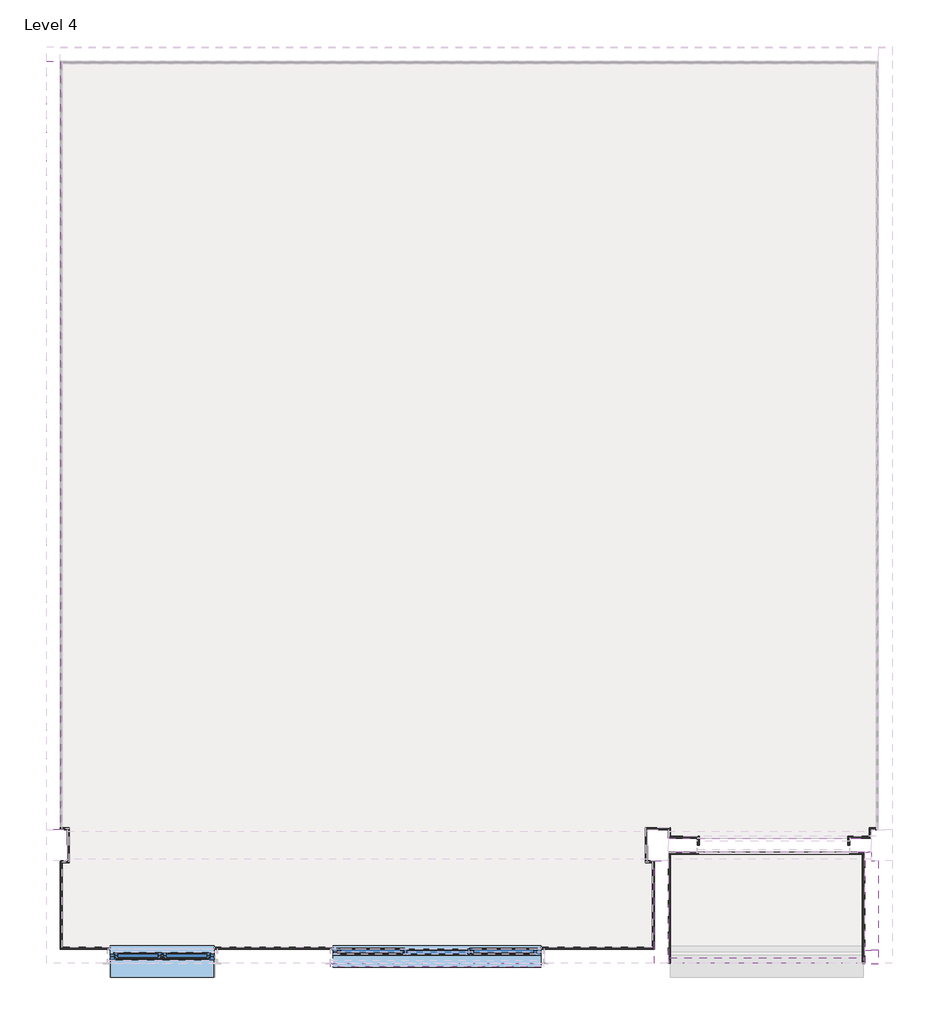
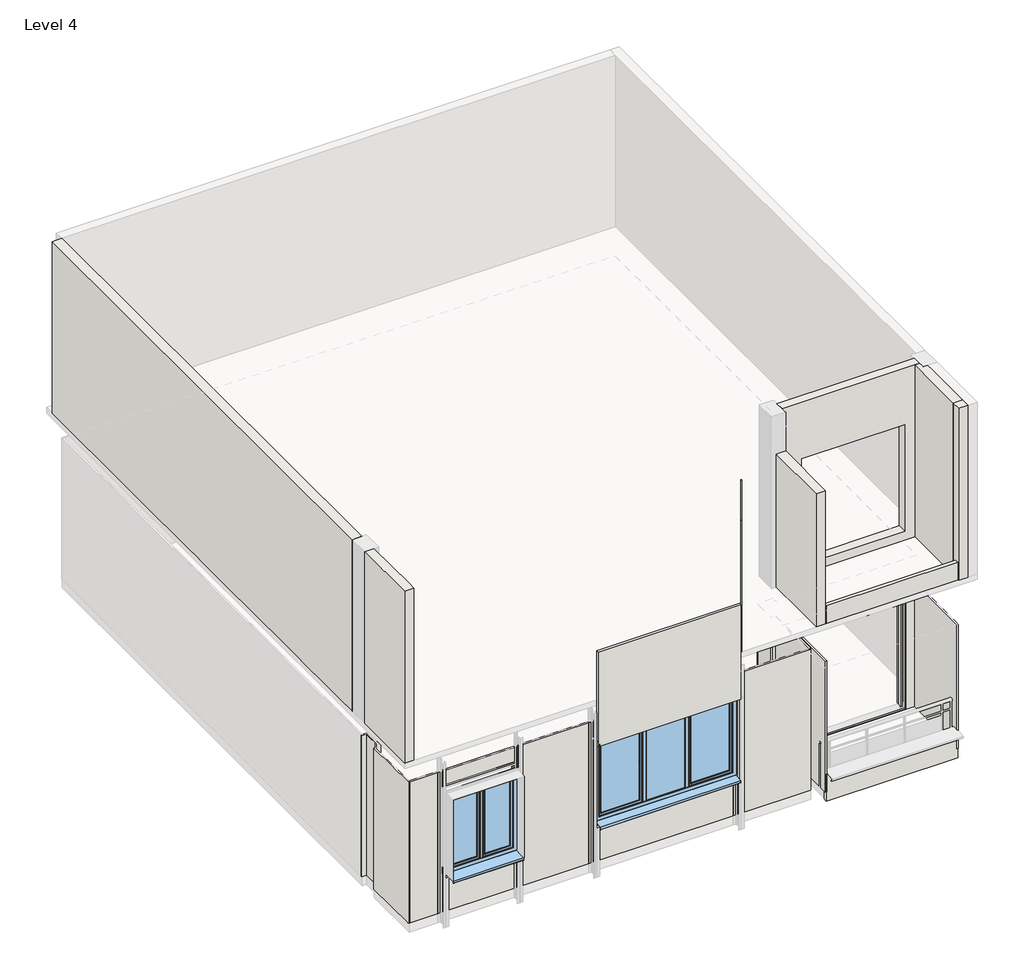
# One storey, part 1 of 2: 27 walls, 2 windows, 1 proxy.
"""IFC4 building model written with IfcOpenShell, lengths in millimetres."""

from ifc_helpers import new_model, si_unit, frame, origin, place, context, project, spatial, polyline, circle_curve, outline, extrude, faceted_brep, transform, mapped, element, save
from ifc_brep_helpers import plane_surface, cylinder_surface, advanced_brep
from components import window_0894faee, window_6c88f6a3, bz1_windows_opening_hinge_s9000_double_vent_window_windows_b4b88814, bz1_windows_opening_hinge_s9000_double_vent_window_windows_c75da518

model = new_model("IFC4")

# Units and contexts
model_context = context("Model", 3, world=origin())
ifc_project = project(units=[si_unit("LENGTHUNIT", "METRE", prefix="MILLI")], contexts=[model_context])

# Site, building, storey
site = spatial("IfcSite", under=ifc_project)
building = spatial("IfcBuilding", under=site)
storey = spatial("IfcBuildingStorey", under=building, Name="Level 4", Elevation=12000.0)

# Proxy
placement = place(None, origin())
element("IfcBuildingElementProxy", 1, Name="Reveal", ObjectType="Reveal", at=placement, inside=storey, context=model_context, shape_type="AdvancedBrep", body=[
    advanced_brep(
    [(2973.4960109, -5700.9799478, 19670.0), (2965.4960254, -5692.9647185, 19670.0), (2957.4960399, -5700.9799478, 19670.0), (2965.4960254, -5708.9647185, 15800.0), (2965.4960254, -5692.9647185, 15800.0), (2973.4960109, -5700.9799478, 15800.0), (2967.4333411, -5700.9799478, 15800.0), (2967.4333411, -5708.7266002, 15800.0), (2967.4333411, -5708.7266002, 18770.3886675), (2965.4960254, -5708.9647185, 18770.3886675), (2957.4960399, -5700.9799478, 18770.3886675), (2967.4333411, -5700.9799478, 18770.3886675)],
    [
        (0, 1, circle_curve(frame((2965.4960254, -5700.9647185, 19670.0), z_axis=(0.0, 0.0, 1.0), x_axis=(0.0, 1.0, 0.0)), 8.0)),
        (1, 2, circle_curve(frame((2965.4960254, -5700.9647185, 19670.0), z_axis=(0.0, 0.0, 1.0), x_axis=(0.0, 1.0, 0.0)), 8.0)),
        (2, 0),
        (3, 4, circle_curve(frame((2965.4960254, -5700.9647185, 15800.0), z_axis=(0.0, 0.0, -1.0), x_axis=(0.0, 1.0, 0.0)), 8.0)),
        (4, 5, circle_curve(frame((2965.4960254, -5700.9647185, 15800.0), z_axis=(0.0, 0.0, -1.0), x_axis=(0.0, 1.0, 0.0)), 8.0)),
        (5, 6),
        (6, 7),
        (7, 3, circle_curve(frame((2965.4960254, -5700.9647185, 15800.0), z_axis=(0.0, 0.0, -1.0), x_axis=(0.0, 1.0, 0.0)), 8.0)),
        (4, 1),
        (0, 5),
        (7, 8),
        (8, 9, circle_curve(frame((2965.4960254, -5700.9647185, 18770.3886675), z_axis=(0.0, 0.0, -1.0), x_axis=(0.0, 1.0, 0.0)), 8.0)),
        (9, 3),
        (9, 10, circle_curve(frame((2965.4960254, -5700.9647185, 18770.3886675), z_axis=(0.0, 0.0, -1.0), x_axis=(0.0, 1.0, 0.0)), 8.0)),
        (10, 2),
        (11, 6),
        (10, 11),
        (11, 8),
    ],
    [
        plane_surface(frame((2964.4333411, -5709.9008409, 19670.0), z_axis=(0.0, 0.0, 1.0), x_axis=(-1.0, 0.0, 0.0))),
        plane_surface(frame((2964.4333411, -5709.9008409, 15800.0), z_axis=(0.0, 0.0, -1.0), x_axis=(-1.0, 0.0, 0.0))),
        cylinder_surface(frame((2965.4960254, -5700.9647185, 19670.0), z_axis=(0.0, 0.0, 1.0), x_axis=(0.0, 1.0, 0.0)), 8.0),
        plane_surface(frame((4759.4333411, -5700.9799478, 3630.0), z_axis=(0.0, -1.0, 0.0), x_axis=(-1.0, 0.0, 0.0))),
        plane_surface(frame((2967.4333411, -5568.8647185, 4900.0), z_axis=(1.0, 0.0, 0.0), x_axis=(0.0, 1.0, 0.0))),
        plane_surface(frame((2939.4333411, -5700.9799478, 18770.3886675), z_axis=(0.0, 0.0, 1.0), x_axis=(1.0, 0.0, 0.0))),
    ],
    [
        (0, [[1, 2, 3]]),
        (1, [[4, 5, 6, 7, 8]]),
        (2, [[9, -1, 10, -5]]),
        (2, [[-8, 11, 12, 13]]),
        (2, [[-4, -13, 14, 15, -2, -9]]),
        (3, [[16, -6, -10, -3, -15, 17]]),
        (4, [[-16, 18, -11, -7]]),
        (5, [[-18, -17, -14, -12]]),
    ],
),
])

# Walls
element("IfcWall", 2, ObjectType="BZ1_fnsh_wthie stucoo_3cm", at=placement, inside=storey, context=model_context, shape_type="Brep", body=[
    faceted_brep([(4789.4333411, -5700.9647185, 12002.7236333), (4789.4333411, -4130.9647185, 12002.7236333), (4789.4333411, -4130.9647185, 14960.1363241), (4789.4333411, -5700.9647185, 14960.1363241), (4759.4333411, -5700.9647185, 12002.7236333), (4759.4333411, -5700.9647185, 14960.1363241), (4759.4333411, -4130.9647185, 14960.1363241), (4759.4333411, -4130.9647185, 14820.0), (4759.4333411, -4130.9647185, 12002.7236333)], [[[0, 1, 2, 3]], [[4, 5, 6, 7, 8]], [[1, 0, 4, 8]], [[3, 2, 6, 5]], [[0, 3, 5, 4]], [[2, 1, 8, 7, 6]]]),
])
element("IfcWall", 3, ObjectType="BZ1_fnsh_wthie stucoo_3cm", at=placement, inside=storey, context=model_context, shape_type="Brep", body=[
    faceted_brep([(7589.4333411, -4100.9647185, 12000.0), (4759.4333411, -4100.9647185, 12000.0), (4759.4333411, -4100.9647185, 14820.0), (7589.4333411, -4100.9647185, 14820.0), (5195.0708411, -4100.9647185, 14400.0), (5195.0708411, -4100.9647185, 12020.6375), (7374.4333411, -4100.9647185, 12020.6375), (7374.4333411, -4100.9647185, 14400.0), (7589.4333411, -4130.9647185, 12000.0), (7589.4333411, -4130.9647185, 14800.0), (7589.4333411, -4130.9647185, 14820.0), (4759.4333411, -4130.9647185, 14820.0), (4759.4333411, -4130.9647185, 12002.7236333), (4759.4333411, -4130.9647185, 12000.0), (7559.4333411, -4130.9647185, 12000.0), (5195.0708411, -4130.9647185, 14400.0), (7374.4333411, -4130.9647185, 14400.0), (7374.4333411, -4130.9647185, 12020.6375), (5195.0708411, -4130.9647185, 12020.6375)], [[[0, 1, 2, 3], [4, 5, 6, 7]], [[8, 9, 10, 11, 12, 13, 14], [15, 16, 17, 18]], [[1, 0, 8, 14, 13]], [[2, 1, 13, 12, 11]], [[3, 2, 11, 10]], [[5, 4, 15, 18]], [[6, 5, 18, 17]], [[7, 6, 17, 16]], [[4, 7, 16, 15]], [[0, 3, 10, 9, 8]]]),
])
element("IfcWall", 4, ObjectType="BZ1_fnsh_wthie stucoo_3cm", at=placement, inside=storey, context=model_context, shape_type="SweptSolid", body=[
    extrude(outline(polyline([(7589.4333411, -4130.9647185), (7589.4333411, -5700.9647185), (7559.4333411, -5700.9647185), (7559.4333411, -4130.9647185), (7589.4333411, -4130.9647185)])), frame((0.0, 0.0, 12000.0), z_axis=(0.0, 0.0, 1.0), x_axis=(1.0, 0.0, 0.0)), (0.0, 0.0, 1.0), 2800.0),
])
element("IfcWall", 5, ObjectType="BZ1_fnsh_white stucoo_5cm", at=placement, inside=storey, context=model_context, shape_type="Brep", body=[
    faceted_brep([(-115.5666589, -5700.9799478, 14770.0), (-115.5666589, -5700.9799478, 16900.0), (2927.4333411, -5700.9799478, 16900.0), (2927.4333411, -5700.9799478, 15800.0), (2927.4333411, -5700.9799478, 14810.0), (-80.2322612, -5700.9799478, 14810.0), (-80.2322612, -5700.9799478, 14770.0), (-115.5666589, -5750.9799478, 14770.0), (2927.4333411, -5750.9799478, 14770.0), (2927.4333411, -5750.9799478, 16900.0), (-115.5666589, -5750.9799478, 16900.0), (2927.4333411, -5743.4647185, 14770.0), (2927.4333411, -5743.4647185, 14810.0), (-80.2322612, -5743.4647185, 14810.0), (-80.2322612, -5743.4647185, 14770.0)], [[[0, 1, 2, 3, 4, 5, 6]], [[7, 8, 9, 10]], [[9, 8, 11, 12, 4, 3, 2]], [[12, 13, 5, 4]], [[14, 13, 12, 11]], [[8, 7, 0, 6, 14, 11]], [[1, 0, 7, 10]], [[2, 1, 10, 9]], [[13, 14, 6, 5]]]),
])
element("IfcWall", 6, ObjectType="BZ1_fnsh_gypsun3cm", at=placement, inside=storey, context=model_context, shape_type="SweptSolid", body=[
    extrude(outline(polyline([(12000.0, 4559.4333411), (15180.0, 4559.4333411), (15180.0, -4010.5666589), (12000.0, -4010.5666589), (12000.0, 4559.4333411)]), holes=[polyline([(12940.0, -1790.5666589), (12940.0, -3290.5666589), (14770.0, -3290.5666589), (14770.0, -1790.5666589), (12940.0, -1790.5666589)]), polyline([(12951.5, 2922.4333411), (12951.5, -75.5666589), (14770.0, -75.5666589), (14770.0, 2922.4333411), (12951.5, 2922.4333411)])]), frame((0.0, -5500.9647185, 0.0), z_axis=(0.0, 1.0, 0.0), x_axis=(0.0, 0.0, 1.0)), (0.0, 0.0, 1.0), 30.0),
])
element("IfcWall", 7, ObjectType="BZ1_fnsh_gypsun3cm", at=placement, inside=storey, context=model_context, shape_type="Brep", body=[
    faceted_brep([(-3980.5666589, -5500.9647185, 12000.0), (-3980.5666589, -4255.9647185, 12000.0), (-3980.5666589, -4225.9647185, 12000.0), (-3980.5666589, -4225.9647185, 15175.0), (-3980.5666589, -5500.9647185, 15175.0), (-4010.5666589, -5500.9647185, 12000.0), (-4010.5666589, -5500.9647185, 15175.0), (-4010.5666589, -4225.9647185, 15175.0), (-4010.5666589, -4225.9647185, 12000.0)], [[[0, 1, 2, 3, 4]], [[5, 6, 7, 8]], [[2, 1, 0, 5, 8]], [[4, 3, 7, 6]], [[3, 2, 8, 7]], [[0, 4, 6, 5]]]),
])
element("IfcWall", 8, ObjectType="BZ1_fnsh_gypsun3cm", at=placement, inside=storey, context=model_context, shape_type="Brep", body=[
    faceted_brep([(-3980.5666589, -4255.9647185, 12000.0), (-3880.5666589, -4255.9647185, 12000.0), (-3880.5666589, -4255.9647185, 15300.0), (-3980.5666589, -4255.9647185, 15300.0), (-3980.5666589, -4225.9647185, 12000.0), (-3980.5666589, -4225.9647185, 15175.0), (-3980.5666589, -4225.9647185, 15300.0), (-3880.5666589, -4225.9647185, 15300.0), (-3880.5666589, -4225.9647185, 15180.0), (-3880.5666589, -4225.9647185, 12000.0), (-3910.5666589, -4225.9647185, 12000.0)], [[[0, 1, 2, 3]], [[4, 5, 6, 7, 8, 9, 10]], [[1, 0, 4, 10, 9]], [[3, 2, 7, 6]], [[0, 3, 6, 5, 4]], [[2, 1, 9, 8, 7]]]),
])
element("IfcWall", 9, ObjectType="BZ1_fnsh_gypsun3cm", at=placement, inside=storey, context=model_context, shape_type="Brep", body=[
    faceted_brep([(-3880.5666589, -4225.9647185, 12000.0), (-3880.5666589, -3745.9647185, 12000.0), (-3880.5666589, -3745.9647185, 15180.0), (-3880.5666589, -4225.9647185, 15180.0), (-3910.5666589, -4225.9647185, 12000.0), (-3910.5666589, -4225.9647185, 15180.0), (-3910.5666589, -3775.9647185, 15180.0), (-3910.5666589, -3745.9647185, 15180.0), (-3910.5666589, -3745.9647185, 12000.0), (-3910.5666589, -3775.9647185, 12000.0)], [[[0, 1, 2, 3]], [[4, 5, 6, 7, 8, 9]], [[1, 0, 4, 9, 8]], [[3, 2, 7, 6, 5]], [[0, 3, 5, 4]], [[2, 1, 8, 7]]]),
])
element("IfcWall", 10, ObjectType="BZ1_fnsh_gypsun3cm", at=placement, inside=storey, context=model_context, shape_type="Brep", body=[
    faceted_brep([(-3910.5666589, -3745.9647185, 12000.0), (-3980.5666589, -3745.9647185, 12000.0), (-4010.5666589, -3745.9647185, 12000.0), (-4010.5666589, -3745.9647185, 15180.0), (-3980.5666589, -3745.9647185, 15180.0), (-3910.5666589, -3745.9647185, 15180.0), (-3910.5666589, -3775.9647185, 12000.0), (-3910.5666589, -3775.9647185, 15180.0), (-4010.5666589, -3775.9647185, 15180.0), (-4010.5666589, -3775.9647185, 12000.0)], [[[0, 1, 2, 3, 4, 5]], [[6, 7, 8, 9]], [[2, 1, 0, 6, 9]], [[5, 4, 3, 8, 7]], [[0, 5, 7, 6]], [[3, 2, 9, 8]]]),
])
element("IfcWall", 11, ObjectType="BZ1_fnsh_gypsun3cm", at=placement, inside=storey, context=model_context, shape_type="Brep", body=[
    faceted_brep([(7759.4333411, -3745.9647185, 12000.0), (7659.4333411, -3745.9647185, 12000.0), (7659.4333411, -3745.9647185, 15184.6661592), (7759.4333411, -3745.9647185, 15184.6661592), (7759.4333411, -3775.9647185, 12000.0), (7759.4333411, -3775.9647185, 15184.6661592), (7659.4333411, -3775.9647185, 15184.6661592), (7659.4333411, -3775.9647185, 15180.0), (7659.4333411, -3775.9647185, 12000.0), (7689.4333411, -3775.9647185, 12000.0)], [[[0, 1, 2, 3]], [[4, 5, 6, 7, 8, 9]], [[1, 0, 4, 9, 8]], [[3, 2, 6, 5]], [[0, 3, 5, 4]], [[2, 1, 8, 7, 6]]]),
])
element("IfcWall", 12, ObjectType="BZ1_fnsh_gypsun3cm", at=placement, inside=storey, context=model_context, shape_type="Brep", body=[
    faceted_brep([(7659.4333411, -3775.9647185, 12000.0), (7659.4333411, -3870.9647185, 12000.0), (7659.4333411, -3900.9647185, 12000.0), (7659.4333411, -3900.9647185, 15200.0), (7659.4333411, -3900.9647185, 15300.0), (7659.4333411, -3870.9647185, 15300.0), (7659.4333411, -3870.9647185, 15200.0), (7659.4333411, -3870.9647185, 15180.0), (7659.4333411, -3775.9647185, 15180.0), (7689.4333411, -3775.9647185, 12000.0), (7689.4333411, -3775.9647185, 15180.0), (7689.4333411, -3870.9647185, 15180.0), (7689.4333411, -3870.9647185, 15300.0), (7689.4333411, -3900.9647185, 15300.0), (7689.4333411, -3900.9647185, 12000.0)], [[[0, 1, 2, 3, 4, 5, 6, 7, 8]], [[9, 10, 11, 12, 13, 14]], [[2, 1, 0, 9, 14]], [[0, 8, 10, 9]], [[5, 4, 13, 12]], [[8, 7, 11, 10]], [[5, 12, 11, 7, 6]], [[2, 14, 13, 4, 3]]]),
])
element("IfcWall", 13, ObjectType="BZ1_fnsh_gypsun3cm", at=placement, inside=storey, context=model_context, shape_type="Brep", body=[
    faceted_brep([(7659.4333411, -3870.9647185, 12000.0), (7344.4333411, -3870.9647185, 12000.0), (7344.4333411, -3870.9647185, 14400.0), (5204.4333411, -3870.9647185, 14400.0), (5174.4333411, -3870.9647185, 14400.0), (5174.4333411, -3870.9647185, 15200.0), (5204.4333411, -3870.9647185, 15200.0), (7659.4333411, -3870.9647185, 15200.0), (7659.4333411, -3870.9647185, 15180.0), (7659.4333411, -3900.9647185, 12000.0), (7659.4333411, -3900.9647185, 15200.0), (5204.4333411, -3900.9647185, 15200.0), (5174.4333411, -3900.9647185, 15200.0), (5174.4333411, -3900.9647185, 14400.0), (5204.4333411, -3900.9647185, 14400.0), (7344.4333411, -3900.9647185, 14400.0), (7344.4333411, -3900.9647185, 12000.0), (7374.4333411, -3900.9647185, 12000.0)], [[[0, 1, 2, 3, 4, 5, 6, 7, 8]], [[9, 10, 11, 12, 13, 14, 15, 16, 17]], [[0, 8, 7, 10, 9]], [[1, 0, 9, 17, 16]], [[4, 3, 2, 15, 14, 13]], [[5, 4, 13, 12]], [[7, 6, 5, 12, 11, 10]], [[2, 1, 16, 15]]]),
])
element("IfcWall", 14, ObjectType="BZ1_fnsh_gypsun3cm", at=placement, inside=storey, context=model_context, shape_type="SweptSolid", body=[
    extrude(outline(polyline([(7344.4333411, -4000.9647185), (7344.4333411, -3900.9647185), (7374.4333411, -3900.9647185), (7374.4333411, -4000.9647185), (7344.4333411, -4000.9647185)])), frame((0.0, 0.0, 12000.0), z_axis=(0.0, 0.0, 1.0), x_axis=(1.0, 0.0, 0.0)), (0.0, 0.0, 1.0), 2400.0),
])
element("IfcWall", 15, ObjectType="BZ1_fnsh_gypsun3cm", at=placement, inside=storey, context=model_context, shape_type="Brep", body=[
    faceted_brep([(5204.4333411, -3870.9647185, 12000.0), (4789.4333411, -3870.9647185, 12000.0), (4759.4333411, -3870.9647185, 12000.0), (4759.4333411, -3870.9647185, 15200.0), (4759.4333411, -3870.9647185, 15300.0), (5204.4333411, -3870.9647185, 15300.0), (5204.4333411, -3870.9647185, 15200.0), (5174.4333411, -3870.9647185, 15200.0), (5174.4333411, -3870.9647185, 14400.0), (5204.4333411, -3870.9647185, 14400.0), (5204.4333411, -3900.9647185, 12000.0), (5204.4333411, -3900.9647185, 14400.0), (5174.4333411, -3900.9647185, 14400.0), (5174.4333411, -3900.9647185, 15200.0), (5204.4333411, -3900.9647185, 15200.0), (5204.4333411, -3900.9647185, 15300.0), (5174.4333411, -3900.9647185, 15300.0), (4759.4333411, -3900.9647185, 15300.0), (4759.4333411, -3900.9647185, 12000.0), (5174.4333411, -3900.9647185, 12000.0)], [[[0, 1, 2, 3, 4, 5, 6, 7, 8, 9]], [[10, 11, 12, 13, 14, 15, 16, 17, 18, 19]], [[2, 1, 0, 10, 19, 18]], [[5, 4, 17, 16, 15]], [[4, 3, 2, 18, 17]], [[8, 12, 11, 9]], [[8, 7, 13, 12]], [[6, 14, 13, 7]], [[0, 9, 11, 10]], [[6, 5, 15, 14]]]),
])
element("IfcWall", 16, ObjectType="BZ1_fnsh_gypsun3cm", at=placement, inside=storey, context=model_context, shape_type="Brep", body=[
    faceted_brep([(4789.4333411, -3870.9647185, 12000.0), (4789.4333411, -3745.9647185, 12000.0), (4789.4333411, -3745.9647185, 15200.0), (4789.4333411, -3870.9647185, 15200.0), (4759.4333411, -3870.9647185, 12000.0), (4759.4333411, -3870.9647185, 15200.0), (4759.4333411, -3775.9647185, 15200.0), (4759.4333411, -3745.9647185, 15200.0), (4759.4333411, -3745.9647185, 12000.0), (4759.4333411, -3775.9647185, 12000.0)], [[[0, 1, 2, 3]], [[4, 5, 6, 7, 8, 9]], [[1, 0, 4, 9, 8]], [[3, 2, 7, 6, 5]], [[0, 3, 5, 4]], [[2, 1, 8, 7]]]),
])
element("IfcWall", 17, ObjectType="BZ1_fnsh_gypsun3cm", at=placement, inside=storey, context=model_context, shape_type="Brep", body=[
    faceted_brep([(4759.4333411, -3745.9647185, 12000.0), (4429.4333411, -3745.9647185, 12000.0), (4429.4333411, -3745.9647185, 15200.0), (4759.4333411, -3745.9647185, 15200.0), (4759.4333411, -3775.9647185, 12000.0), (4759.4333411, -3775.9647185, 15200.0), (4429.4333411, -3775.9647185, 15200.0), (4429.4333411, -3775.9647185, 12000.0), (4459.4333411, -3775.9647185, 12000.0)], [[[0, 1, 2, 3]], [[4, 5, 6, 7, 8]], [[1, 0, 4, 8, 7]], [[3, 2, 6, 5]], [[0, 3, 5, 4]], [[2, 1, 7, 6]]]),
])
element("IfcWall", 18, ObjectType="BZ1_fnsh_gypsun3cm", at=placement, inside=storey, context=model_context, shape_type="Brep", body=[
    faceted_brep([(4429.4333411, -3775.9647185, 12000.0), (4429.4333411, -4255.9647185, 12000.0), (4429.4333411, -4255.9647185, 15180.0), (4429.4333411, -4240.9647185, 15180.0), (4429.4333411, -4240.9647185, 15200.4600485), (4429.4333411, -3775.9647185, 15200.4600485), (4429.4333411, -3775.9647185, 15200.0), (4459.4333411, -3775.9647185, 12000.0), (4459.4333411, -3775.9647185, 15200.4600485), (4459.4333411, -4240.9647185, 15200.4600485), (4459.4333411, -4240.9647185, 15180.0), (4459.4333411, -4255.9647185, 15180.0), (4459.4333411, -4255.9647185, 12000.0), (4459.4333411, -4225.9647185, 12000.0)], [[[0, 1, 2, 3, 4, 5, 6]], [[7, 8, 9, 10, 11, 12, 13]], [[1, 0, 7, 13, 12]], [[0, 6, 5, 8, 7]], [[2, 1, 12, 11]], [[5, 4, 9, 8]], [[3, 2, 11, 10]], [[9, 4, 3, 10]]]),
])
element("IfcWall", 19, ObjectType="BZ1_fnsh_gypsun3cm", at=placement, inside=storey, context=model_context, shape_type="Brep", body=[
    faceted_brep([(4459.4333411, -4255.9647185, 12000.0), (4529.4333411, -4255.9647185, 12000.0), (4559.4333411, -4255.9647185, 12000.0), (4559.4333411, -4255.9647185, 15200.0), (4559.4333411, -4255.9647185, 15300.0), (4459.4333411, -4255.9647185, 15300.0), (4459.4333411, -4255.9647185, 15180.0), (4459.4333411, -4225.9647185, 12000.0), (4459.4333411, -4225.9647185, 15300.0), (4559.4333411, -4225.9647185, 15300.0), (4559.4333411, -4225.9647185, 12000.0)], [[[0, 1, 2, 3, 4, 5, 6]], [[7, 8, 9, 10]], [[2, 1, 0, 7, 10]], [[5, 4, 9, 8]], [[0, 6, 5, 8, 7]], [[2, 10, 9, 4, 3]]]),
])
element("IfcWall", 20, ObjectType="BZ1_fnsh_gypsun3cm", at=placement, inside=storey, context=model_context, shape_type="SweptSolid", body=[
    extrude(outline(polyline([(4529.4333411, -5500.9647185), (4529.4333411, -4255.9647185), (4559.4333411, -4255.9647185), (4559.4333411, -5500.9647185), (4529.4333411, -5500.9647185)])), frame((0.0, 0.0, 12000.0), z_axis=(0.0, 0.0, 1.0), x_axis=(1.0, 0.0, 0.0)), (0.0, 0.0, 1.0), 3200.0),
])
element("IfcWall", 21, ObjectType="BZ1_fnsh_gypsun3cm", at=placement, inside=storey, context=model_context, shape_type="Brep", body=[
    faceted_brep([(5174.4333411, -3900.9647185, 15300.0), (5174.4333411, -3900.9647185, 15200.0), (5174.4333411, -3900.9647185, 14400.0), (5174.4333411, -3900.9647185, 12000.0), (5174.4333411, -4000.9647185, 12000.0), (5174.4333411, -4000.9647185, 15300.0), (5204.4333411, -3900.9647185, 12000.0), (5204.4333411, -3900.9647185, 14400.0), (5204.4333411, -3900.9647185, 15200.0), (5204.4333411, -3900.9647185, 15300.0), (5204.4333411, -4000.9647185, 15300.0), (5204.4333411, -4000.9647185, 12000.0)], [[[0, 1, 2, 3, 4, 5]], [[6, 7, 8, 9, 10, 11]], [[4, 3, 6, 11]], [[5, 4, 11, 10]], [[0, 5, 10, 9]], [[0, 9, 8, 7, 6, 3, 2, 1]]]),
])
element("IfcWall", 22, ObjectType="BZ1_Core_Block_Whit flashing-10cm", at=placement, inside=storey, context=model_context, shape_type="SweptSolid", body=[
    extrude(outline(polyline([(4774.4280707, -5620.3554823), (7574.4280707, -5620.3554823), (7574.4280707, -5700.3554823), (4774.4280707, -5700.3554823), (4774.4280707, -5620.3554823)])), frame((0.0, 0.0, 15800.0), z_axis=(0.0, 0.0, 1.0), x_axis=(1.0, 0.0, 0.0)), (0.0, 0.0, 1.0), 400.0),
])
element("IfcWall", 23, ObjectType="BZ1_Core_Block_Whit flashing-10cm", at=placement, inside=storey, context=model_context, shape_type="SweptSolid", body=[
    extrude(outline(polyline([(4774.4280707, -5620.3554823), (7574.4280707, -5620.3554823), (7574.4280707, -5700.3554823), (4774.4280707, -5700.3554823), (4774.4280707, -5620.3554823)])), frame((0.0, 0.0, 11800.0), z_axis=(0.0, 0.0, 1.0), x_axis=(1.0, 0.0, 0.0)), (0.0, 0.0, 1.0), 600.0),
])
element("IfcWall", 24, ObjectType="BZ1-Core-Block-20cm", at=placement, inside=storey, context=model_context, shape_type="Brep", body=[
    faceted_brep([(-4010.5666589, -5700.9799478, 19670.0), (-4010.5666589, -5700.9799478, 15800.0), (-4010.5666589, -5500.9647185, 15800.0), (-4010.5666589, -4225.9647185, 15800.0), (-4010.5666589, -4225.9647185, 19670.0), (-4010.5666589, -5500.9647185, 19670.0), (-4210.5666589, -5700.9799478, 15800.0), (-4210.5666589, -5700.9799478, 19670.0), (-4210.5666589, -4225.9647185, 19670.0), (-4210.5666589, -4225.9647185, 15800.0)], [[[0, 1, 2, 3, 4, 5]], [[6, 7, 8, 9]], [[7, 0, 5, 4, 8]], [[4, 3, 9, 8]], [[1, 6, 9, 3, 2]], [[1, 0, 7, 6]]]),
    faceted_brep([(-4010.5666589, 7299.0352815, 15800.0), (-4010.5666589, 7299.0352815, 16000.0), (-4010.5666589, 7299.0352815, 19180.0), (-4010.5666589, 7299.0352815, 19670.0), (-4010.5666589, -3775.9647185, 19670.0), (-4010.5666589, -3775.9647185, 19180.0), (-4010.5666589, -3775.9647185, 16000.0), (-4010.5666589, -3775.9647185, 15800.0), (-4210.5666589, 7299.0352815, 19670.0), (-4210.5666589, 7299.0352815, 15800.0), (-4210.5666589, -3775.9647185, 15800.0), (-4210.5666589, -3775.9647185, 19670.0)], [[[0, 1, 2, 3, 4, 5, 6, 7]], [[8, 9, 10, 11]], [[3, 8, 11, 4]], [[7, 6, 5, 4, 11, 10]], [[3, 2, 1, 0, 9, 8]], [[9, 0, 7, 10]]]),
])
element("IfcWall", 25, ObjectType="BZ1-Core-Block-20cm", at=placement, inside=storey, context=model_context, shape_type="Brep", body=[
    faceted_brep([(4759.4333411, -5700.9647185, 18800.0), (4759.4333411, -5700.9647185, 15800.0), (4759.4333411, -4225.9647185, 15800.0), (4759.4333411, -4225.9647185, 18800.0), (4559.4333411, -5700.9647185, 15800.0), (4559.4333411, -5700.9647185, 18800.0), (4559.4333411, -4225.9647185, 18800.0), (4559.4333411, -4225.9647185, 16000.0), (4559.4333411, -4225.9647185, 15800.0), (4559.4333411, -5500.9647185, 15800.0)], [[[0, 1, 2, 3]], [[4, 5, 6, 7, 8, 9]], [[3, 2, 8, 7, 6]], [[1, 4, 9, 8, 2]], [[5, 0, 3, 6]], [[0, 5, 4, 1]]]),
])
element("IfcWall", 26, ObjectType="BZ1-Core-Block-20cm", at=placement, inside=storey, context=model_context, shape_type="Brep", body=[
    faceted_brep([(4759.4333411, -4100.9647185, 19670.0), (4759.4333411, -4100.9647185, 15800.0), (7589.4333411, -4100.9647185, 15800.0), (7689.4333411, -4100.9647185, 15800.0), (7689.4333411, -4100.9647185, 19670.0), (7589.4333411, -4100.9647185, 19670.0), (5174.4333411, -4100.9647185, 16000.0), (5174.4333411, -4100.9647185, 18400.0), (7374.4333411, -4100.9647185, 18400.0), (7374.4333411, -4100.9647185, 16000.0), (4759.4333411, -3900.9647185, 15800.0), (4759.4333411, -3900.9647185, 19670.0), (7689.4333411, -3900.9647185, 19670.0), (7689.4333411, -3900.9647185, 19300.0), (7689.4333411, -3900.9647185, 16000.0), (7689.4333411, -3900.9647185, 15800.0), (5174.4333411, -3900.9647185, 18400.0), (5174.4333411, -3900.9647185, 16000.0), (7374.4333411, -3900.9647185, 16000.0), (7374.4333411, -3900.9647185, 18400.0)], [[[0, 1, 2, 3, 4, 5], [6, 7, 8, 9]], [[10, 11, 12, 13, 14, 15], [16, 17, 18, 19]], [[1, 10, 15, 3, 2]], [[1, 0, 11, 10]], [[11, 0, 5, 4, 12]], [[6, 17, 16, 7]], [[7, 16, 19, 8]], [[18, 9, 8, 19]], [[17, 6, 9, 18]], [[4, 3, 15, 14, 13, 12]]]),
])
element("IfcWall", 27, ObjectType="BZ1-Core-Block-20cm", at=placement, inside=storey, context=model_context, shape_type="Brep", body=[
    faceted_brep([(7789.4333411, -5515.9647185, 15800.0), (7589.4333411, -5515.9647185, 15800.0), (7589.4333411, -5515.9647185, 19670.0), (7789.4333411, -5515.9647185, 19670.0), (7789.4333411, -5515.9647185, 16000.0), (7789.4333411, -5715.9647185, 15800.0), (7789.4333411, -5715.9647185, 16000.0), (7789.4333411, -5715.9647185, 19670.0), (7589.4333411, -5715.9647185, 19670.0), (7589.4333411, -5715.9647185, 15800.0)], [[[0, 1, 2, 3, 4]], [[5, 6, 7, 8, 9]], [[3, 2, 8, 7]], [[1, 0, 5, 9]], [[1, 9, 8, 2]], [[0, 4, 3, 7, 6, 5]]]),
])
element("IfcWall", 28, ObjectType="BZ1-Core-Block-20cm", at=placement, inside=storey, context=model_context, shape_type="Brep", body=[
    faceted_brep([(7789.4333411, -5515.9647185, 19670.0), (7789.4333411, -5515.9647185, 15800.0), (7789.4333411, -4225.9647185, 15800.0), (7789.4333411, -4225.9647185, 19670.0), (7589.4333411, -4100.9647185, 15800.0), (7589.4333411, -5515.9647185, 15800.0), (7589.4333411, -5515.9647185, 19670.0), (7589.4333411, -4100.9647185, 19670.0), (7589.4333411, -4100.9647185, 18820.0), (7589.4333411, -4100.9647185, 16000.0), (7689.4333411, -4100.9647185, 15800.0), (7689.4333411, -4225.9647185, 15800.0), (7689.4333411, -4225.9647185, 19670.0), (7689.4333411, -4100.9647185, 19670.0)], [[[0, 1, 2, 3]], [[4, 5, 6, 7, 8, 9]], [[5, 4, 10, 11, 2, 1]], [[7, 6, 0, 3, 12, 13]], [[4, 9, 8, 7, 13, 10]], [[11, 12, 3, 2]], [[12, 11, 10, 13]], [[5, 1, 0, 6]]]),
])

# Windows
window_shape = window_0894faee(model_context)
window_2_shape = window_6c88f6a3(model_context)
element("IfcWindow", 29, ObjectType="BZ1_Windows_Opening-Hinge_S9000_Three-Piece-Window-Turn-Tilt : Windows_Opening-Hinge_S9000_Three-Piece-Window-Turn-Tilt", at=placement, inside=storey, context=model_context, shape_type="MappedRepresentation", body=[
    mapped(window_shape, transform((1424.4333411, -5600.9647185, 12100.0), x_axis=(1.0, 0.0, 0.0), y_axis=(0.0, 1.0, 0.0), z_axis=(0.0, 0.0, 1.0))),
    mapped(window_2_shape, transform((1424.4333411, -5600.9647185, 12100.0), x_axis=(1.0, 0.0, 0.0), y_axis=(0.0, 1.0, 0.0), z_axis=(0.0, 0.0, 1.0))),
])
bz1_windows_opening_hinge_s9000_double_vent_window_windows_shape = bz1_windows_opening_hinge_s9000_double_vent_window_windows_b4b88814(model_context)
bz1_windows_opening_hinge_s9000_double_vent_window_windows_2_shape = bz1_windows_opening_hinge_s9000_double_vent_window_windows_c75da518(model_context)
element("IfcWindow", 30, ObjectType="BZ1_Windows_Opening-Hinge_S9000-Double-Vent-Window : Windows_Opening-Hinge_S9000-Double-Vent-Window", at=placement, inside=storey, context=model_context, shape_type="MappedRepresentation", body=[
    mapped(bz1_windows_opening_hinge_s9000_double_vent_window_windows_shape, transform((-2540.5666589, -5600.9647185, 12100.0), x_axis=(-1.0, 0.0, 0.0), y_axis=(0.0, -1.0, 0.0), z_axis=(0.0, 0.0, 1.0))),
    mapped(bz1_windows_opening_hinge_s9000_double_vent_window_windows_2_shape, transform((-2540.5666589, -5600.9647185, 12100.0), x_axis=(-1.0, 0.0, 0.0), y_axis=(0.0, -1.0, 0.0), z_axis=(0.0, 0.0, 1.0))),
])

save(model, "model.ifc")
